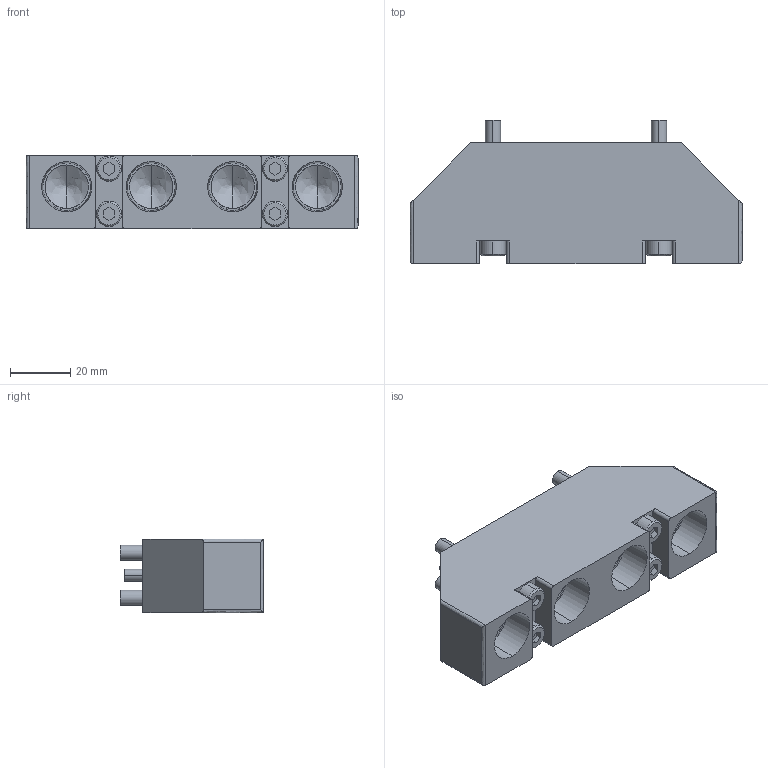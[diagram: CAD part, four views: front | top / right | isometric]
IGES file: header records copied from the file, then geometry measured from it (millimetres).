
Start section: 3D InterOp IGES (v. 2022 1.0.0), Spatial Corp. Copyright (c) 1999-2020.
Global section: file name: KHB-45~300RS-EP104_ver1.igs; native system: Spatial Corp.; preprocessor: 3D InterOp GENERIC/IGES 3.0; author: Noname; organization: Noname; date: 20260427.163949; units: millimetre
Bounding box: 110 x 47.5 x 24.5 mm (x, y, z)
Surface area: 25638.3 mm2 (no closed solid volume)
Topology: 0 solids, 0 shells, 163 faces, 804 edges, 796 vertices
Faces by surface type: revolution 95, extrusion 68
